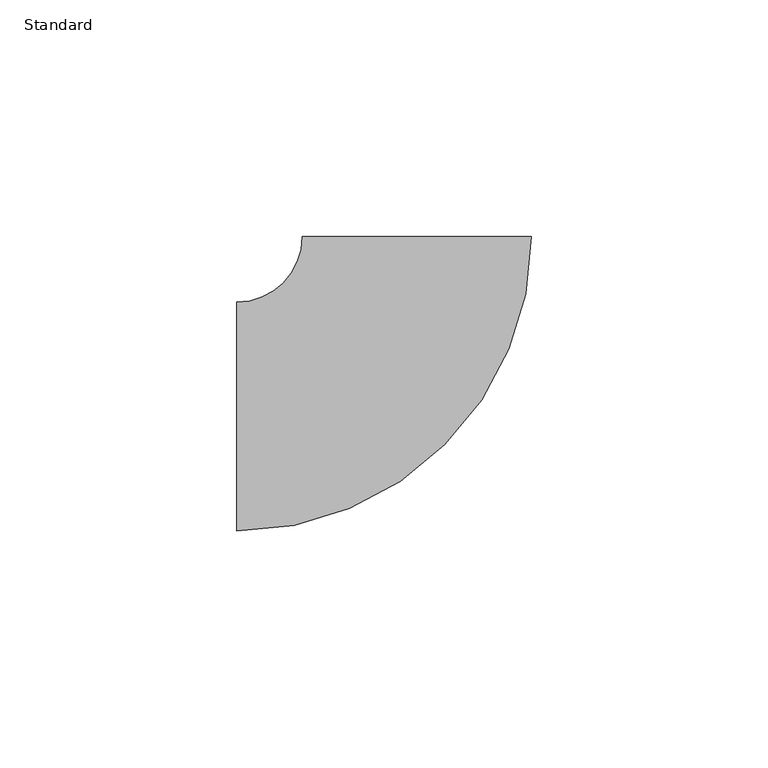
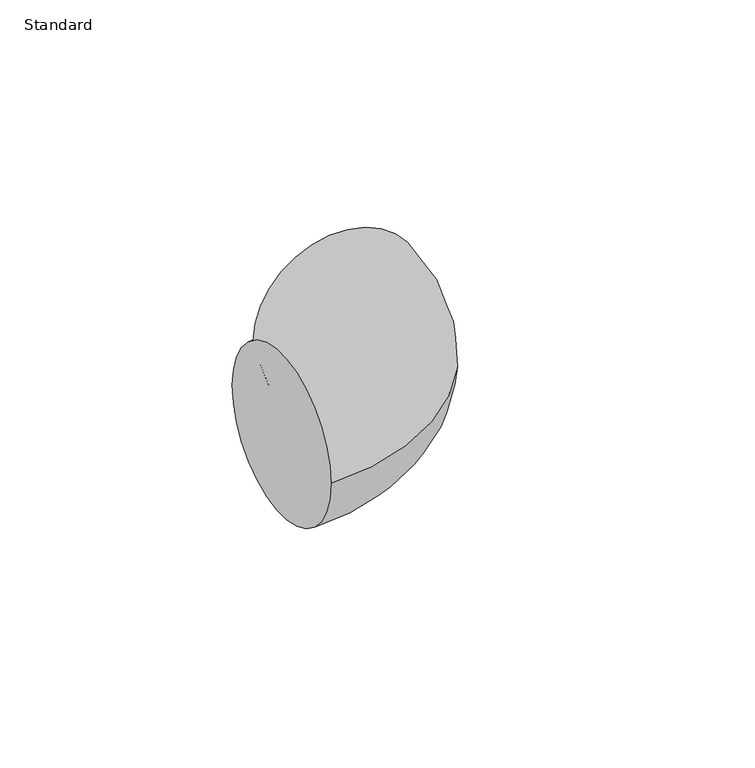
"""IFC4 building model written with IfcOpenShell, lengths in millimetres: pipe fitting geometry, Coude - Générique : Standard."""

from ifc_helpers import new_model, si_unit, point, frame, origin, place, context, project, spatial, circle_curve, ellipse_curve, trimmed, source, transform, mapped, element, save
from ifc_brep_helpers import plane_surface, revolved_surface, advanced_brep


def standard_3e4c9b55(model_context):
    return source(origin(), model_context, "Body", "AdvancedBrep", [
        advanced_brep(
        [(-38.0, -24.15, 0.0), (-38.0, 24.15, 0.0), (24.1549726, 37.9968393, 0.0), (-24.145027, 38.00316, 0.0)],
        [
            (0, 1, circle_curve(frame((-38.0, 0.0, 0.0), z_axis=(-1.0, 0.0, 0.0), x_axis=(0.0, 1.0, 0.0)), 24.15)),
            (1, 0, circle_curve(frame((-38.0, 0.0, 0.0), z_axis=(-1.0, 0.0, 0.0), x_axis=(0.0, 1.0, 0.0)), 24.15)),
            (2, 3, circle_curve(frame((0.0049728, 37.9999997, 0.0), z_axis=(0.0001308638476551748, 0.9999999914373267, 0.0), x_axis=(-0.9999999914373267, 0.0001308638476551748, 0.0)), 24.15)),
            (3, 2, circle_curve(frame((0.0049728, 37.9999997, 0.0), z_axis=(0.0001308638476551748, 0.9999999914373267, 0.0), x_axis=(-0.9999999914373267, 0.0001308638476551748, 0.0)), 24.15)),
            (3, 1, circle_curve(frame((-38.0, 38.0049732, 0.0), z_axis=(0.0, 0.0, -1.0), x_axis=(0.0, -1.0, 0.0)), 13.8549732)),
            (0, 2, circle_curve(frame((-38.0, 38.0049732, 0.0), z_axis=(0.0, 0.0, 1.0), x_axis=(0.0, -1.0, 0.0)), 62.1549732)),
        ],
        [
            plane_surface(frame((-38.0, 0.0, 0.0), z_axis=(-1.0, 0.0, 0.0), x_axis=(0.0, 0.0, 1.0))),
            plane_surface(frame((0.0049728, 37.9999997, 0.0), z_axis=(0.00013086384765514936, 0.9999999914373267, 0.0), x_axis=(0.0, 0.0, 1.0))),
            revolved_surface(trimmed(ellipse_curve(frame((-38.0, 0.0, 0.0), z_axis=(-1.0, 0.0, 0.0), x_axis=(0.0, 1.0, 0.0)), 24.15, 24.15), [point((-38.0, -24.15, 0.0))], [point((-38.0, 24.15, 0.0))], True, "CARTESIAN"), (-38.0, 38.0049732, 0.0), (0.0, 0.0, 1.0)),
            revolved_surface(trimmed(ellipse_curve(frame((-38.0, 0.0, 0.0), z_axis=(-1.0, 0.0, 0.0), x_axis=(0.0, 1.0, 0.0)), 24.15, 24.15), [point((-38.0, 24.15, 0.0))], [point((-38.0, -24.15, 0.0))], True, "CARTESIAN"), (-38.0, 38.0049732, 0.0), (0.0, 0.0, 1.0)),
        ],
        [
            (0, [[1, 2]]),
            (1, [[3, 4]]),
            (2, [[5, -1, 6, -4]]),
            (3, [[-6, -2, -5, -3]]),
        ],
    ),
    ])


if __name__ == "__main__":
    model = new_model("IFC4")
    model_context = context("Model", 3, world=origin())
    ifc_project = project(units=[si_unit("LENGTHUNIT", "METRE", prefix="MILLI")], contexts=[model_context])
    site = spatial("IfcSite", under=ifc_project)
    building = spatial("IfcBuilding", under=site)
    placement = place(None, origin())
    standard_shape = standard_3e4c9b55(model_context)
    element("IfcPipeFitting", 1, ObjectType="Coude - Générique : Standard", at=placement, inside=building, context=model_context, shape_type="MappedRepresentation", body=[
        mapped(standard_shape, transform((0.0, 0.0, 0.0), x_axis=(1.0, 0.0, 0.0), y_axis=(0.0, 1.0, 0.0), z_axis=(0.0, 0.0, 1.0))),
    ])
    save(model, "model.ifc")
